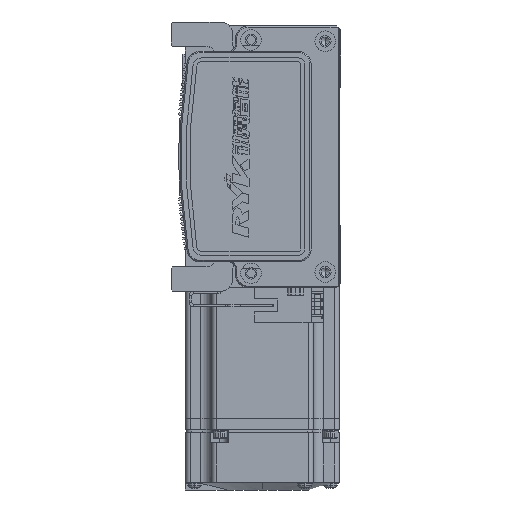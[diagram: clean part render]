
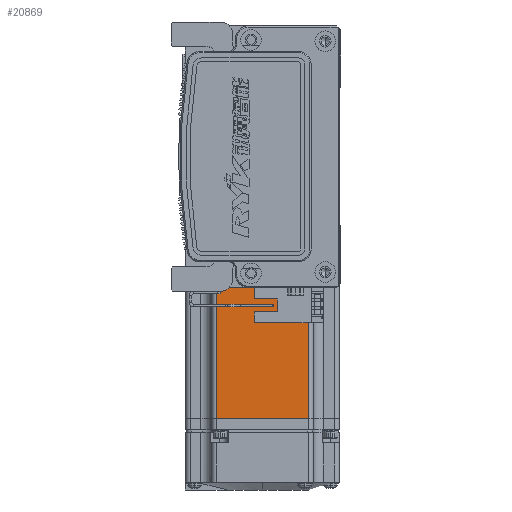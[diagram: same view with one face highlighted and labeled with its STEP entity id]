
A CAD part, left-side view. The second image highlights one B-rep face of the part: STEP entity #20869.
In plain terms, the highlighted planar face has unit normal (-1, 0, 0) as drawn and (0, 0, 1) by its records, which use the part's own axes.
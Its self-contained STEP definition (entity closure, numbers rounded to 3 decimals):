
#871 = EDGE_CURVE ( 'NONE', #39759, #18884, #71902, .T. ) ;
#2283 = ORIENTED_EDGE ( 'NONE', *, *, #871, .F. ) ;
#2814 = CARTESIAN_POINT ( 'NONE',  ( -6.5, 18., 30. ) ) ;
#3249 = DIRECTION ( 'NONE',  ( 1., 0., 0. ) ) ;
#6898 = EDGE_CURVE ( 'NONE', #18884, #40152, #28757, .T. ) ;
#7002 = VERTEX_POINT ( 'NONE', #60666 ) ;
#8445 = DIRECTION ( 'NONE',  ( -1., 0., 0. ) ) ;
#10562 = VECTOR ( 'NONE', #27496, 1000. ) ;
#18884 = VERTEX_POINT ( 'NONE', #61221 ) ;
#19853 = DIRECTION ( 'NONE',  ( 0., -1., 0. ) ) ;
#20869 = ADVANCED_FACE ( 'NONE', ( #61569 ), #25726, .T. ) ;
#22561 = EDGE_CURVE ( 'NONE', #7002, #40152, #69947, .T. ) ;
#25298 = CARTESIAN_POINT ( 'NONE',  ( -7.75, 18., 30. ) ) ;
#25726 = PLANE ( 'NONE',  #39688 ) ;
#27496 = DIRECTION ( 'NONE',  ( 0., -1., 0. ) ) ;
#28109 = ORIENTED_EDGE ( 'NONE', *, *, #49157, .T. ) ;
#28757 = LINE ( 'NONE', #41502, #41916 ) ;
#30410 = VECTOR ( 'NONE', #8445, 1000. ) ;
#34692 = ORIENTED_EDGE ( 'NONE', *, *, #6898, .F. ) ;
#36471 = CARTESIAN_POINT ( 'NONE',  ( -7.75, 0., 30. ) ) ;
#39688 = AXIS2_PLACEMENT_3D ( 'NONE', #70134, #47988, #3249 ) ;
#39759 = VERTEX_POINT ( 'NONE', #25298 ) ;
#40152 = VERTEX_POINT ( 'NONE', #40197 ) ;
#40197 = CARTESIAN_POINT ( 'NONE',  ( -70.95, -18., 30. ) ) ;
#41502 = CARTESIAN_POINT ( 'NONE',  ( -6.5, -18., 30. ) ) ;
#41916 = VECTOR ( 'NONE', #52705, 1000. ) ;
#45275 = LINE ( 'NONE', #2814, #30410 ) ;
#47988 = DIRECTION ( 'NONE',  ( 0., 0., 1. ) ) ;
#48923 = ORIENTED_EDGE ( 'NONE', *, *, #22561, .T. ) ;
#49157 = EDGE_CURVE ( 'NONE', #39759, #7002, #45275, .T. ) ;
#52705 = DIRECTION ( 'NONE',  ( -1., 0., 0. ) ) ;
#60666 = CARTESIAN_POINT ( 'NONE',  ( -70.95, 18., 30. ) ) ;
#61221 = CARTESIAN_POINT ( 'NONE',  ( -7.75, -18., 30. ) ) ;
#61569 = FACE_OUTER_BOUND ( 'NONE', #71143, .T. ) ;
#65820 = CARTESIAN_POINT ( 'NONE',  ( -70.95, 0., 30. ) ) ;
#68393 = VECTOR ( 'NONE', #19853, 1000. ) ;
#69947 = LINE ( 'NONE', #65820, #10562 ) ;
#70134 = CARTESIAN_POINT ( 'NONE',  ( -6.5, -25., 30. ) ) ;
#71143 = EDGE_LOOP ( 'NONE', ( #2283, #28109, #48923, #34692 ) ) ;
#71902 = LINE ( 'NONE', #36471, #68393 ) ;
